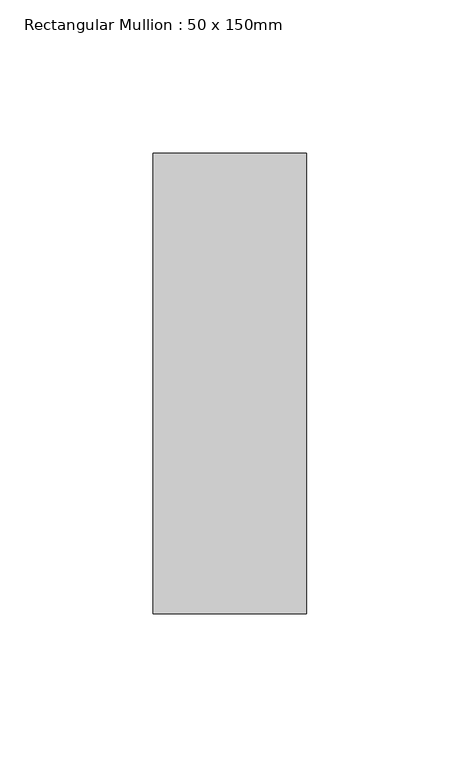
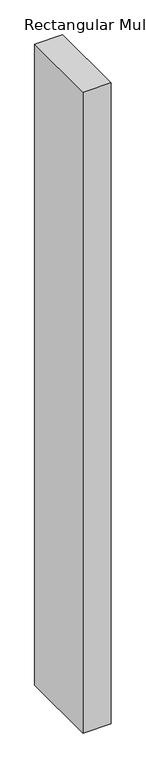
"""IFC4 building model written with IfcOpenShell, lengths in millimetres: member geometry, Rectangular Mullion : 50 x 150mm."""

from ifc_helpers import new_model, si_unit, frame, origin, place, context, project, spatial, polyline, outline, extrude, source, transform, mapped, element, save


def rectangular_mullion_50_x_150mm_623d38aa(model_context):
    return source(origin(), model_context, "Body", "SweptSolid", [
        extrude(outline(polyline([(0.0, 75.0), (0.0, -75.0), (-50.0, -75.0), (-50.0, 75.0), (0.0, 75.0)])), frame((0.0, 0.0, -1213.4952582), z_axis=(0.0, 0.0, 1.0), x_axis=(1.0, 0.0, 0.0)), (0.0, 0.0, 1.0), 1213.4952582),
    ])


if __name__ == "__main__":
    model = new_model("IFC4")
    model_context = context("Model", 3, world=origin())
    ifc_project = project(units=[si_unit("LENGTHUNIT", "METRE", prefix="MILLI")], contexts=[model_context])
    site = spatial("IfcSite", under=ifc_project)
    building = spatial("IfcBuilding", under=site)
    placement = place(None, origin())
    rectangular_mullion_50_x_150mm_shape = rectangular_mullion_50_x_150mm_623d38aa(model_context)
    element("IfcMember", 1, ObjectType="Rectangular Mullion : 50 x 150mm", at=placement, inside=building, context=model_context, shape_type="MappedRepresentation", body=[
        mapped(rectangular_mullion_50_x_150mm_shape, transform((0.0, 0.0, 0.0), x_axis=(1.0, 0.0, 0.0), y_axis=(0.0, 1.0, 0.0), z_axis=(0.0, 0.0, 1.0))),
    ])
    save(model, "model.ifc")
